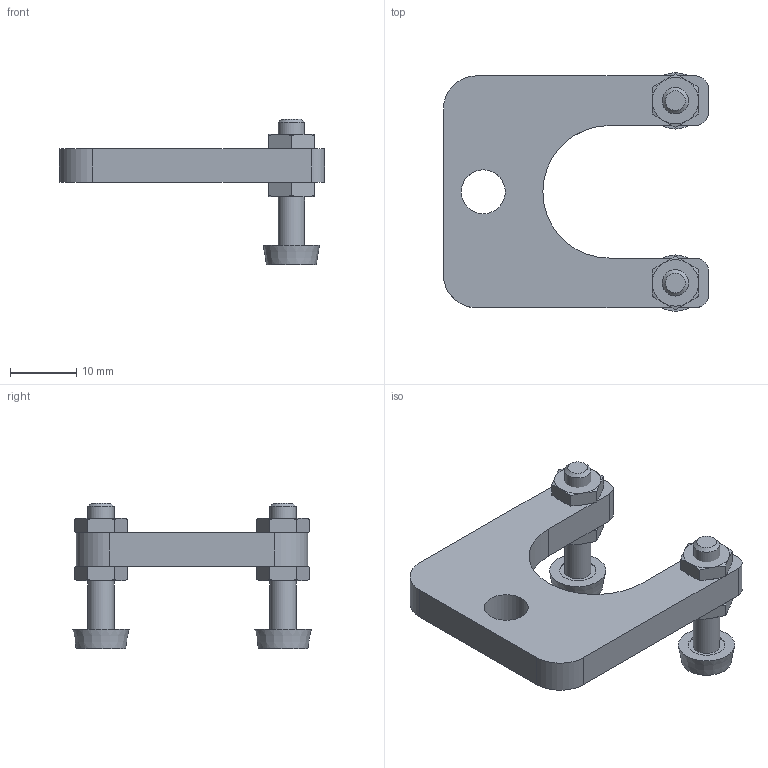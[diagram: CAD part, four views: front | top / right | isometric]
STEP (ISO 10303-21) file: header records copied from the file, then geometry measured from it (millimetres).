
FILE_DESCRIPTION(/* description */ ('','CAx-IF Rec.Pracs.---Representation and Presentation of Product Manufacturing Information (PMI)---3.8---2014-02-18'),/* implementation_level */ '2;1');
FILE_NAME(/* name */ 'E:\Users\CAD5\sito AP\scarica_file\3d\94.50.stp',/* time_stamp */ '2016-08-30T14:38:41+02:00',/* author */ ('CAD5'),/* organization */ (''),/* preprocessor_version */ 'ST-DEVELOPER v16.1',/* originating_system */ 'Autodesk Inventor 2016',/* authorisation */ '0 mm^3');
FILE_SCHEMA (('AP242_MANAGED_MODEL_BASED_3D_ENGINEERING_MIM_LF { 1 0 10303 442 1 1 4 }'));
Length unit declared in the file: millimetre
Products named in the file (8): 94.51; 92.02; 92.01; 92.03; 205208_M_002; 92.00; 92.00_1; 94.50
Assembly tree (11 placements, depth 4):
  94.50
    94.51
    92.00
      92.03
        92.02
        92.01
      205208_M_002  x2
    92.00_1
      92.03
        92.02
        92.01
      205208_M_002  x2
Bounding box: 40 x 36 x 22 mm (x, y, z)
Volume: 5454 mm3; surface area: 4431.6 mm2
Topology: 9 solids, 9 shells, 125 faces, 266 edges, 163 vertices
Faces by surface type: plane 53, cone 52, cylinder 20
Full cylindrical faces by diameter (mm): 3.242 x6, 3.978 x2, 5.5 x4, 6.647 x1
Entity records: 1550 total; most frequent: CARTESIAN_POINT 288, DIRECTION 260, ORIENTED_EDGE 202, AXIS2_PLACEMENT_3D 113, EDGE_CURVE 101, EDGE_LOOP 70, VERTEX_POINT 69, FACE_OUTER_BOUND 51
